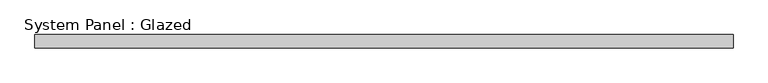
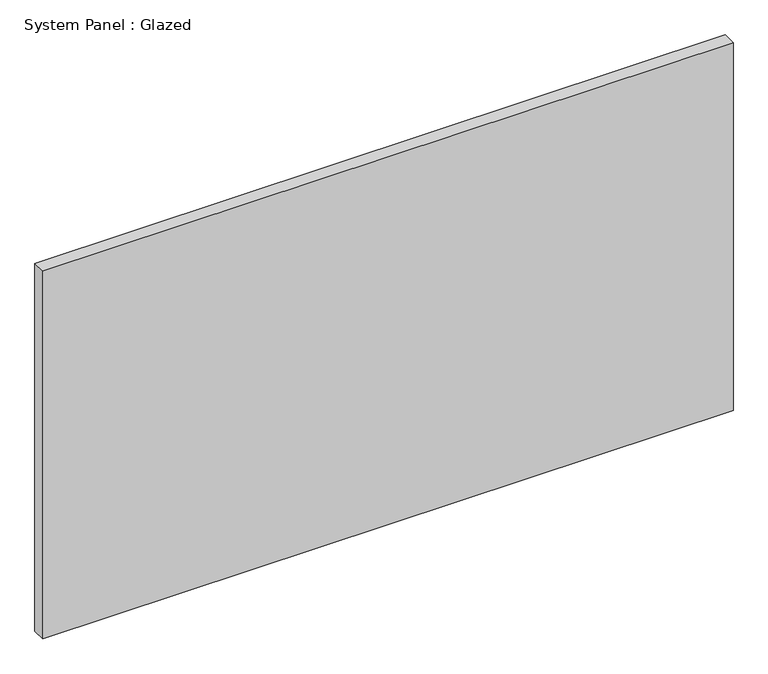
"""IFC4 building model written with IfcOpenShell, lengths in millimetres: plate geometry, System Panel : Glazed."""

from ifc_helpers import new_model, si_unit, origin, origin_with_axes, place, context, project, spatial, polyline, outline, extrude, source, transform, mapped, element, save


def system_panel_glazed_0709dafc(model_context):
    return source(origin(), model_context, "Body", "SweptSolid", [
        extrude(outline(polyline([(643.3333333, -49.5), (-643.3333333, -49.5), (-643.3333333, -24.5), (643.3333333, -24.5), (643.3333333, -49.5)])), origin_with_axes(), (0.0, 0.0, 1.0), 725.0),
    ])


if __name__ == "__main__":
    model = new_model("IFC4")
    model_context = context("Model", 3, world=origin())
    ifc_project = project(units=[si_unit("LENGTHUNIT", "METRE", prefix="MILLI")], contexts=[model_context])
    site = spatial("IfcSite", under=ifc_project)
    building = spatial("IfcBuilding", under=site)
    placement = place(None, origin())
    system_panel_glazed_shape = system_panel_glazed_0709dafc(model_context)
    element("IfcPlate", 1, ObjectType="System Panel : Glazed", at=placement, inside=building, context=model_context, shape_type="MappedRepresentation", body=[
        mapped(system_panel_glazed_shape, transform((0.0, 0.0, 0.0), x_axis=(1.0, 0.0, 0.0), y_axis=(0.0, 1.0, 0.0), z_axis=(0.0, 0.0, 1.0))),
    ])
    save(model, "model.ifc")
